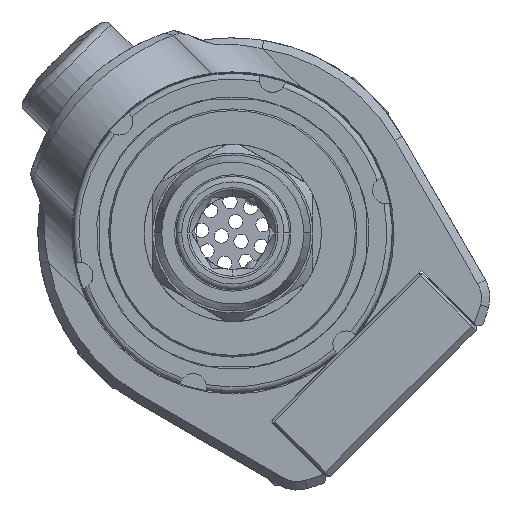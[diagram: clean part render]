
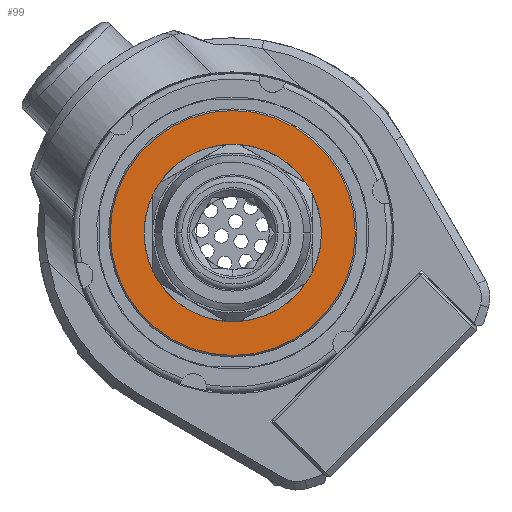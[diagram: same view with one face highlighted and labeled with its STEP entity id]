
A CAD part, left-side view. The second image highlights one B-rep face of the part: STEP entity #99.
In plain terms, the highlighted planar face has unit normal (-1, 0, 0).
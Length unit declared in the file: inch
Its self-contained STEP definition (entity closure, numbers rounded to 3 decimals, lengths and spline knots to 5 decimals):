
#99 = ADVANCED_FACE ( 'NONE', ( #9244, #9265 ), #8905, .T. ) ;
#1830 = AXIS2_PLACEMENT_3D ( 'NONE', #8904, #8903, #8902 ) ;
#2446 = EDGE_CURVE ( 'NONE', #3527, #9329, #5455, .T. ) ;
#2685 = EDGE_CURVE ( 'NONE', #9392, #3319, #5815, .T. ) ;
#2687 = EDGE_CURVE ( 'NONE', #3319, #9392, #5803, .T. ) ;
#2692 = EDGE_CURVE ( 'NONE', #9329, #3527, #5804, .T. ) ;
#2880 = EDGE_LOOP ( 'NONE', ( #9744, #9535 ) ) ;
#3319 = VERTEX_POINT ( 'NONE', #13218 ) ;
#3527 = VERTEX_POINT ( 'NONE', #13549 ) ;
#3887 = EDGE_LOOP ( 'NONE', ( #9760, #9829 ) ) ;
#5173 = AXIS2_PLACEMENT_3D ( 'NONE', #13778, #13798, #13819 ) ;
#5249 = AXIS2_PLACEMENT_3D ( 'NONE', #13724, #13727, #13730 ) ;
#5254 = AXIS2_PLACEMENT_3D ( 'NONE', #13710, #13711, #13712 ) ;
#5451 = AXIS2_PLACEMENT_3D ( 'NONE', #12135, #12549, #12304 ) ;
#5455 = CIRCLE ( 'NONE', #5451, 0.43173 ) ;
#5803 = CIRCLE ( 'NONE', #5249, 0.3115 ) ;
#5804 = CIRCLE ( 'NONE', #5173, 0.43173 ) ;
#5815 = CIRCLE ( 'NONE', #5254, 0.3115 ) ;
#8902 = DIRECTION ( 'NONE',  ( 0., 1., 0. ) ) ;
#8903 = DIRECTION ( 'NONE',  ( -1., 0., 0. ) ) ;
#8904 = CARTESIAN_POINT ( 'NONE',  ( -4.11799, -0.25812, -0.06438 ) ) ;
#8905 = PLANE ( 'NONE',  #1830 ) ;
#9244 = FACE_BOUND ( 'NONE', #2880, .T. ) ;
#9265 = FACE_OUTER_BOUND ( 'NONE', #3887, .T. ) ;
#9329 = VERTEX_POINT ( 'NONE', #13016 ) ;
#9392 = VERTEX_POINT ( 'NONE', #13076 ) ;
#9535 = ORIENTED_EDGE ( 'NONE', *, *, #2687, .T. ) ;
#9744 = ORIENTED_EDGE ( 'NONE', *, *, #2685, .T. ) ;
#9760 = ORIENTED_EDGE ( 'NONE', *, *, #2446, .T. ) ;
#9829 = ORIENTED_EDGE ( 'NONE', *, *, #2692, .T. ) ;
#12135 = CARTESIAN_POINT ( 'NONE',  ( -4.11799, -0.25812, -0.06438 ) ) ;
#12304 = DIRECTION ( 'NONE',  ( 0., 1., 0. ) ) ;
#12549 = DIRECTION ( 'NONE',  ( -1., 0., 0. ) ) ;
#13016 = CARTESIAN_POINT ( 'NONE',  ( -4.11799, 0.17361, -0.06422 ) ) ;
#13076 = CARTESIAN_POINT ( 'NONE',  ( -4.11799, 0.05338, -0.06426 ) ) ;
#13218 = CARTESIAN_POINT ( 'NONE',  ( -4.11799, -0.56962, -0.0645 ) ) ;
#13549 = CARTESIAN_POINT ( 'NONE',  ( -4.11799, -0.68984, -0.06454 ) ) ;
#13710 = CARTESIAN_POINT ( 'NONE',  ( -4.11799, -0.25812, -0.06438 ) ) ;
#13711 = DIRECTION ( 'NONE',  ( 1., 0., 0. ) ) ;
#13712 = DIRECTION ( 'NONE',  ( 0., 1., 0. ) ) ;
#13724 = CARTESIAN_POINT ( 'NONE',  ( -4.11799, -0.25812, -0.06438 ) ) ;
#13727 = DIRECTION ( 'NONE',  ( 1., 0., 0. ) ) ;
#13730 = DIRECTION ( 'NONE',  ( 0., 1., 0. ) ) ;
#13778 = CARTESIAN_POINT ( 'NONE',  ( -4.11799, -0.25812, -0.06438 ) ) ;
#13798 = DIRECTION ( 'NONE',  ( -1., 0., 0. ) ) ;
#13819 = DIRECTION ( 'NONE',  ( 0., 1., 0. ) ) ;
